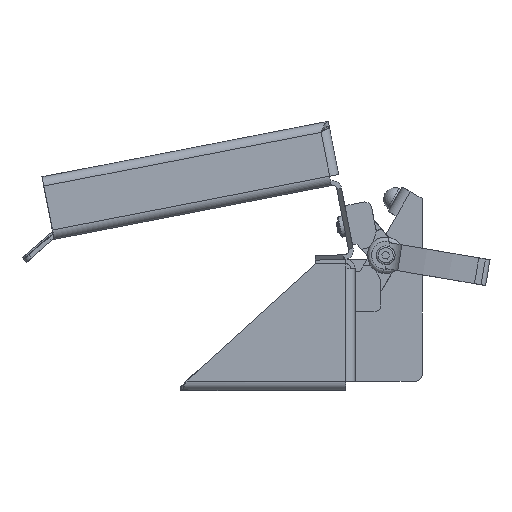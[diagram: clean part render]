
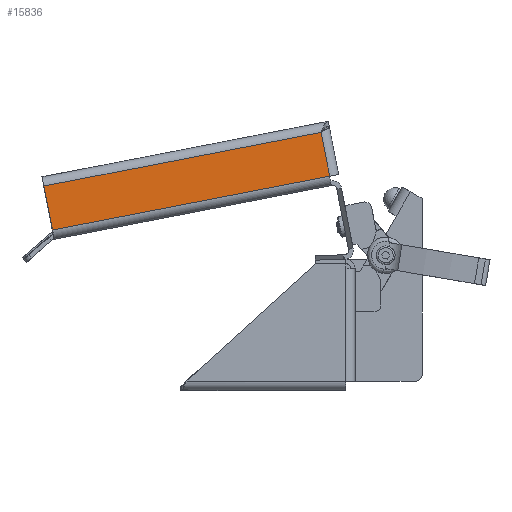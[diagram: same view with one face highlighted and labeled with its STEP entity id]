
A CAD part, left-side view. The second image highlights one B-rep face of the part: STEP entity #15836.
In plain terms, the highlighted planar face has unit normal (-0.999, -0.034, 0.007).
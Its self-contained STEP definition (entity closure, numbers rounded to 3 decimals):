
#120 = CARTESIAN_POINT ( 'NONE',  ( -89.687, 124.122, 64.293 ) ) ;
#732 = VECTOR ( 'NONE', #20056, 1000. ) ;
#949 = CARTESIAN_POINT ( 'NONE',  ( -85.499, 10.398, 107.771 ) ) ;
#5166 = AXIS2_PLACEMENT_3D ( 'NONE', #31847, #7873, #35868 ) ;
#6360 = CARTESIAN_POINT ( 'NONE',  ( -85.499, 6.776, 89.12 ) ) ;
#7873 = DIRECTION ( 'NONE',  ( 0.999, 0.034, -0.007 ) ) ;
#8279 = CARTESIAN_POINT ( 'NONE',  ( -89.687, 128.125, 84.908 ) ) ;
#9134 = VERTEX_POINT ( 'NONE', #8279 ) ;
#9810 = LINE ( 'NONE', #48795, #31126 ) ;
#11848 = ORIENTED_EDGE ( 'NONE', *, *, #34217, .T. ) ;
#13307 = EDGE_CURVE ( 'NONE', #9134, #30427, #43438, .T. ) ;
#15836 = ADVANCED_FACE ( 'NONE', ( #26201 ), #39606, .F. ) ;
#16326 = ORIENTED_EDGE ( 'NONE', *, *, #30067, .F. ) ;
#16440 = EDGE_CURVE ( 'NONE', #22933, #9134, #9810, .T. ) ;
#20056 = DIRECTION ( 'NONE',  ( 0., -0.191, -0.982 ) ) ;
#21197 = CARTESIAN_POINT ( 'NONE',  ( -89.687, 124.503, 66.256 ) ) ;
#21625 = VECTOR ( 'NONE', #24929, 1000. ) ;
#22454 = LINE ( 'NONE', #6360, #42551 ) ;
#22933 = VERTEX_POINT ( 'NONE', #34397 ) ;
#24608 = DIRECTION ( 'NONE',  ( -0.035, 0.981, -0.191 ) ) ;
#24929 = DIRECTION ( 'NONE',  ( 0., 0.191, 0.982 ) ) ;
#25445 = VERTEX_POINT ( 'NONE', #28291 ) ;
#26201 = FACE_OUTER_BOUND ( 'NONE', #47714, .T. ) ;
#27076 = ORIENTED_EDGE ( 'NONE', *, *, #16440, .T. ) ;
#28291 = CARTESIAN_POINT ( 'NONE',  ( -85.499, 6.776, 89.12 ) ) ;
#30067 = EDGE_CURVE ( 'NONE', #25445, #30427, #22454, .T. ) ;
#30189 = DIRECTION ( 'NONE',  ( -0.035, 0.981, -0.191 ) ) ;
#30427 = VERTEX_POINT ( 'NONE', #21197 ) ;
#31126 = VECTOR ( 'NONE', #24608, 1000. ) ;
#31847 = CARTESIAN_POINT ( 'NONE',  ( -85.499, 6.395, 87.157 ) ) ;
#31990 = ORIENTED_EDGE ( 'NONE', *, *, #13307, .T. ) ;
#34217 = EDGE_CURVE ( 'NONE', #25445, #22933, #43012, .T. ) ;
#34397 = CARTESIAN_POINT ( 'NONE',  ( -85.499, 10.398, 107.771 ) ) ;
#35868 = DIRECTION ( 'NONE',  ( -0.035, 0.981, -0.191 ) ) ;
#39606 = PLANE ( 'NONE',  #5166 ) ;
#42551 = VECTOR ( 'NONE', #30189, 1000. ) ;
#43012 = LINE ( 'NONE', #949, #21625 ) ;
#43438 = LINE ( 'NONE', #120, #732 ) ;
#47714 = EDGE_LOOP ( 'NONE', ( #16326, #11848, #27076, #31990 ) ) ;
#48795 = CARTESIAN_POINT ( 'NONE',  ( -89.687, 128.125, 84.908 ) ) ;
